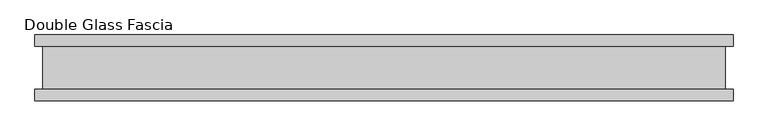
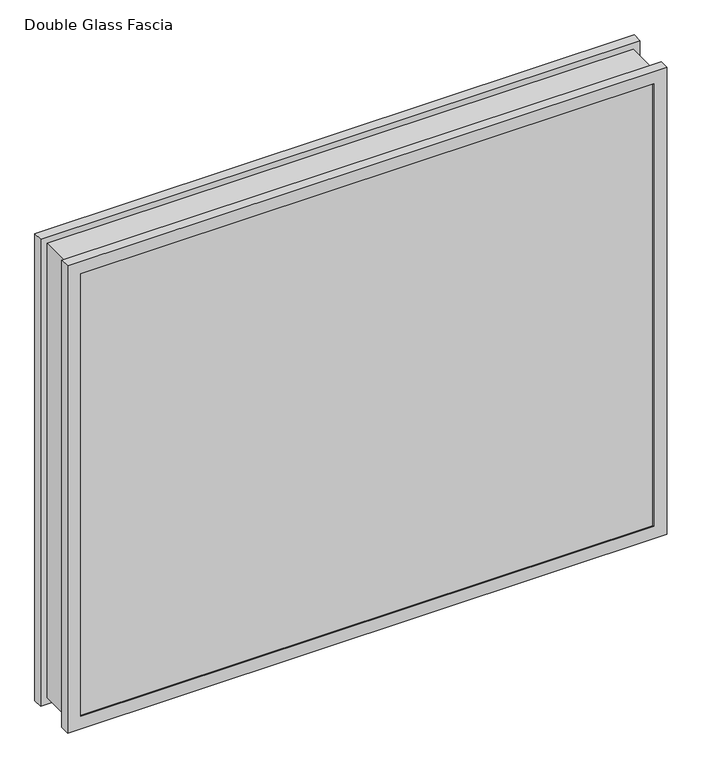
"""IFC4 building model written with IfcOpenShell, lengths in millimetres: proxy geometry, Glass_Fascia-Teknion-FHSG2-Double_Square_Corner-R2022 : Double Glass Fascia."""

from ifc_helpers import new_model, si_unit, frame, origin, place, context, project, spatial, polyline, outline, extrude, faceted_brep, source, transform, mapped, element, save


def double_glass_fascia_db91f134(model_context):
    return source(origin(), model_context, "Body", "SolidModel", [
        faceted_brep([(519.6640848, -32.4352299, 866.775885), (519.6640848, -32.4352299, 15.0359151), (519.6640848, 32.4352299, 15.0359151), (519.6640848, 32.4352299, 866.775885), (-519.6640848, -32.4352299, 15.0359151), (-519.6640848, 32.4352299, 15.0359151), (-519.6640848, -32.4352299, 866.775885), (-519.6640848, 32.4352299, 866.775885), (508.4871999, 38.8962152, 855.5990001), (508.4871999, 38.8962152, 26.2128), (508.4871999, -38.8962152, 26.2128), (508.4871999, -38.8962152, 855.5990001), (525.2218392, 47.1322551, 872.3336393), (525.2218392, 47.1322551, 9.4781608), (525.2218392, 38.8962152, 9.4781608), (525.2218392, 38.8962152, 872.3336393), (508.3093999, 50.0558594, 855.4212001), (508.3093999, 50.0558594, 26.3906), (508.3093999, 47.1322551, 26.3906), (508.3093999, 47.1322551, 855.4212001), (531.5249999, 32.4352299, 878.6368001), (531.5249999, 32.4352299, 3.175), (531.5249999, 50.0558594, 3.175), (531.5249999, 50.0558594, 878.6368001), (-508.4871999, 38.8962152, 26.2128), (-508.4871999, -38.8962152, 26.2128), (-525.2218392, 47.1322551, 9.4781608), (-525.2218392, 38.8962152, 9.4781608), (-508.3093999, 50.0558594, 26.3906), (-508.3093999, 47.1322551, 26.3906), (-531.5249999, 32.4352299, 3.175), (-531.5249999, 50.0558594, 3.175), (-508.4871999, 38.8962152, 855.5990001), (-508.4871999, -38.8962152, 855.5990001), (-525.2218392, 47.1322551, 872.3336393), (-525.2218392, 38.8962152, 872.3336393), (-508.3093999, 50.0558594, 855.4212001), (-508.3093999, 47.1322551, 855.4212001), (-531.5249999, 32.4352299, 878.6368001), (-531.5249999, 50.0558594, 878.6368001), (531.5249999, -50.0558594, 878.6368001), (531.5249999, -50.0558594, 3.175), (531.5249999, -32.4352299, 3.175), (531.5249999, -32.4352299, 878.6368001), (508.4871999, -47.1322551, 855.5990001), (508.4871999, -47.1322551, 26.2128), (508.4871999, -50.0558594, 26.2128), (508.4871999, -50.0558594, 855.5990001), (525.2218392, -38.8962152, 872.3336393), (525.2218392, -38.8962152, 9.4781608), (525.2218392, -47.1322551, 9.4781608), (525.2218392, -47.1322551, 872.3336393), (-531.5249999, -50.0558594, 3.175), (-531.5249999, -32.4352299, 3.175), (-508.4871999, -47.1322551, 26.2128), (-508.4871999, -50.0558594, 26.2128), (-525.2218392, -38.8962152, 9.4781608), (-525.2218392, -47.1322551, 9.4781608), (-531.5249999, -50.0558594, 878.6368001), (-531.5249999, -32.4352299, 878.6368001), (-508.4871999, -47.1322551, 855.5990001), (-508.4871999, -50.0558594, 855.5990001), (-525.2218392, -38.8962152, 872.3336393), (-525.2218392, -47.1322551, 872.3336393)], [[[0, 1, 2, 3]], [[1, 4, 5, 2]], [[4, 6, 7, 5]], [[6, 0, 3, 7]], [[8, 9, 10, 11]], [[12, 13, 14, 15]], [[16, 17, 18, 19]], [[20, 21, 22, 23]], [[9, 24, 25, 10]], [[13, 26, 27, 14]], [[17, 28, 29, 18]], [[21, 30, 31, 22]], [[24, 32, 33, 25]], [[26, 34, 35, 27]], [[28, 36, 37, 29]], [[30, 38, 39, 31]], [[32, 8, 11, 33]], [[15, 14, 27, 35], [9, 8, 32, 24]], [[34, 12, 15, 35]], [[13, 12, 34, 26], [19, 18, 29, 37]], [[36, 16, 19, 37]], [[23, 22, 31, 39], [17, 16, 36, 28]], [[38, 20, 23, 39]], [[21, 20, 38, 30], [3, 2, 5, 7]], [[40, 41, 42, 43]], [[44, 45, 46, 47]], [[48, 49, 50, 51]], [[41, 52, 53, 42]], [[45, 54, 55, 46]], [[49, 56, 57, 50]], [[52, 58, 59, 53]], [[54, 60, 61, 55]], [[56, 62, 63, 57]], [[43, 42, 53, 59], [1, 0, 6, 4]], [[58, 40, 43, 59]], [[41, 40, 58, 52], [47, 46, 55, 61]], [[60, 44, 47, 61]], [[51, 50, 57, 63], [45, 44, 60, 54]], [[62, 48, 51, 63]], [[49, 48, 62, 56], [11, 10, 25, 33]]]),
        extrude(outline(polyline([(520.7, 40.9277344), (-520.7, 40.9277344), (-520.7, 46.8808594), (520.7, 46.8808594), (520.7, 40.9277344)])), frame((0.0, 0.0, 5.3275263), z_axis=(0.0, 0.0, 1.0), x_axis=(1.0, 0.0, 0.0)), (0.0, 0.0, 1.0), 870.6627281),
        extrude(outline(polyline([(520.7, -41.1791301), (520.7, -47.1322551), (-520.7, -47.1322551), (-520.7, -41.1791301), (520.7, -41.1791301)])), frame((0.0, 0.0, 5.3275263), z_axis=(0.0, 0.0, 1.0), x_axis=(1.0, 0.0, 0.0)), (0.0, 0.0, 1.0), 870.6627281),
    ])


if __name__ == "__main__":
    model = new_model("IFC4")
    model_context = context("Model", 3, world=origin())
    ifc_project = project(units=[si_unit("LENGTHUNIT", "METRE", prefix="MILLI")], contexts=[model_context])
    site = spatial("IfcSite", under=ifc_project)
    building = spatial("IfcBuilding", under=site)
    placement = place(None, origin())
    double_glass_fascia_shape = double_glass_fascia_db91f134(model_context)
    element("IfcBuildingElementProxy", 1, Name="Glass_Fascia-Teknion-FHSG2-Double_Square_Corner-R2022 : Double Glass Fascia", ObjectType="Glass_Fascia-Teknion-FHSG2-Double_Square_Corner-R2022 : Double Glass Fascia", at=placement, inside=building, context=model_context, shape_type="MappedRepresentation", body=[
        mapped(double_glass_fascia_shape, transform((0.0, 0.0, 0.0), x_axis=(1.0, 0.0, 0.0), y_axis=(0.0, 1.0, 0.0), z_axis=(0.0, 0.0, 1.0))),
    ])
    save(model, "model.ifc")
